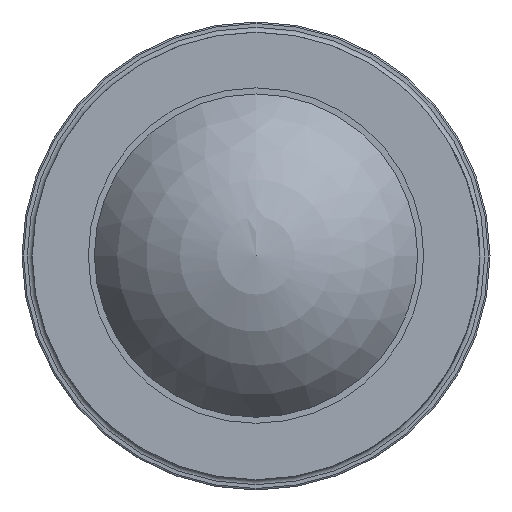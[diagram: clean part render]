
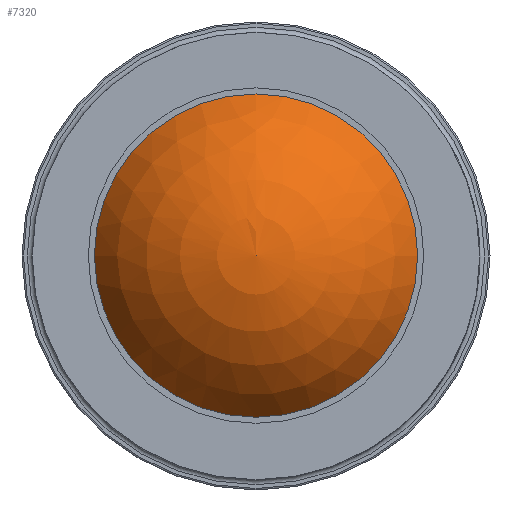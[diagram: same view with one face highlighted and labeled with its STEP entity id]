
A CAD part, left-side view. The second image highlights one B-rep face of the part: STEP entity #7320.
In plain terms, the highlighted spherical face has radius 30.161 mm.
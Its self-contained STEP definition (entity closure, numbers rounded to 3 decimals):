
#115=SPHERICAL_SURFACE('',#7711,30.161);
#891=CIRCLE('',#7712,26.314);
#1270=ORIENTED_EDGE('',*,*,#2766,.T.);
#2766=EDGE_CURVE('',#3532,#3532,#891,.T.);
#3532=VERTEX_POINT('',#10123);
#4024=EDGE_LOOP('',(#1270));
#4454=FACE_BOUND('',#4024,.T.);
#7320=ADVANCED_FACE('',(#4454),#115,.T.);
#7711=AXIS2_PLACEMENT_3D('',#10121,#8168,#8169);
#7712=AXIS2_PLACEMENT_3D('',#10122,#8170,#8171);
#8168=DIRECTION('',(-1.,0.,0.));
#8169=DIRECTION('',(0.,0.,1.));
#8170=DIRECTION('',(-1.,0.,0.));
#8171=DIRECTION('',(0.,0.,1.));
#10121=CARTESIAN_POINT('',(-120.835,0.,0.));
#10122=CARTESIAN_POINT('',(-135.573,0.,0.));
#10123=CARTESIAN_POINT('',(-135.573,0.,26.314));
